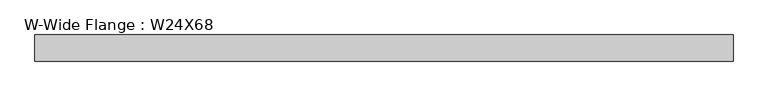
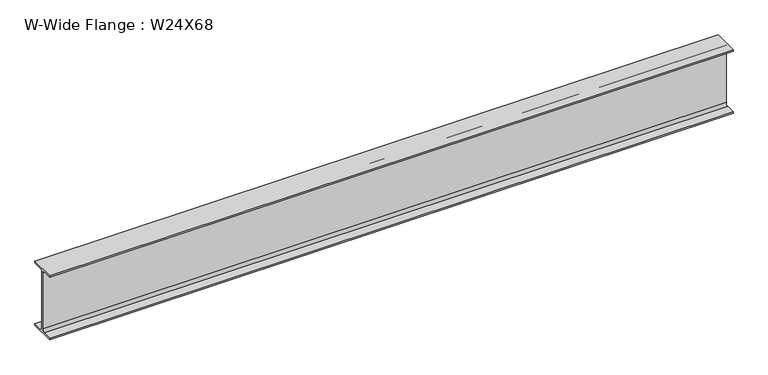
"""IFC4 building model written with IfcOpenShell, lengths in millimetres: beam geometry, W-Wide Flange : W24X68."""

from ifc_helpers import new_model, si_unit, point, frame, frame_2d, origin, place, context, project, spatial, polyline, circle_curve, trimmed, segment, composite_curve, outline, extrude, source, transform, mapped, element, save


def w_wide_flange_w24x68_66c816e6(model_context):
    return source(origin(), model_context, "Body", "SweptSolid", [
        extrude(outline(composite_curve([segment(polyline([(113.919, -286.131), (113.919, -300.99), (-113.919, -300.99), (-113.919, -286.131), (-28.5115, -286.131)]), True, "CONTINUOUS"), segment(trimmed(circle_curve(frame_2d((-28.5115, -262.89)), 23.241), [point((-28.5115, -286.131))], [point((-5.2705, -262.89))], True, "CARTESIAN"), True, "CONTINUOUS"), segment(polyline([(-5.2705, -262.89), (-5.2705, 262.89)]), True, "CONTINUOUS"), segment(trimmed(circle_curve(frame_2d((-28.5115, 262.89)), 23.241), [point((-5.2705, 262.89))], [point((-28.5115, 286.131))], True, "CARTESIAN"), True, "CONTINUOUS"), segment(polyline([(-28.5115, 286.131), (-113.919, 286.131), (-113.919, 300.99), (113.919, 300.99), (113.919, 286.131), (28.5115, 286.131)]), True, "CONTINUOUS"), segment(trimmed(circle_curve(frame_2d((28.5115, 262.89)), 23.241), [point((28.5115, 286.131))], [point((5.2705, 262.89))], True, "CARTESIAN"), True, "CONTINUOUS"), segment(polyline([(5.2705, 262.89), (5.2705, -262.89)]), True, "CONTINUOUS"), segment(trimmed(circle_curve(frame_2d((28.5115, -262.89)), 23.241), [point((5.2705, -262.89))], [point((28.5115, -286.131))], True, "CARTESIAN"), True, "CONTINUOUS"), segment(polyline([(28.5115, -286.131), (113.919, -286.131)]), True, "CONTINUOUS")], self_intersect=False)), frame((-3074.9875, 0.0, 0.0), z_axis=(1.0, 0.0, 0.0), x_axis=(0.0, 1.0, 0.0)), (0.0, 0.0, 1.0), 6093.1425),
    ])


if __name__ == "__main__":
    model = new_model("IFC4")
    model_context = context("Model", 3, world=origin())
    ifc_project = project(units=[si_unit("LENGTHUNIT", "METRE", prefix="MILLI")], contexts=[model_context])
    site = spatial("IfcSite", under=ifc_project)
    building = spatial("IfcBuilding", under=site)
    placement = place(None, origin())
    w_wide_flange_w24x68_shape = w_wide_flange_w24x68_66c816e6(model_context)
    element("IfcBeam", 1, ObjectType="W-Wide Flange : W24X68", at=placement, inside=building, context=model_context, shape_type="MappedRepresentation", body=[
        mapped(w_wide_flange_w24x68_shape, transform((0.0, 0.0, 0.0), x_axis=(1.0, 0.0, 0.0), y_axis=(0.0, 1.0, 0.0), z_axis=(0.0, 0.0, 1.0))),
    ])
    save(model, "model.ifc")
